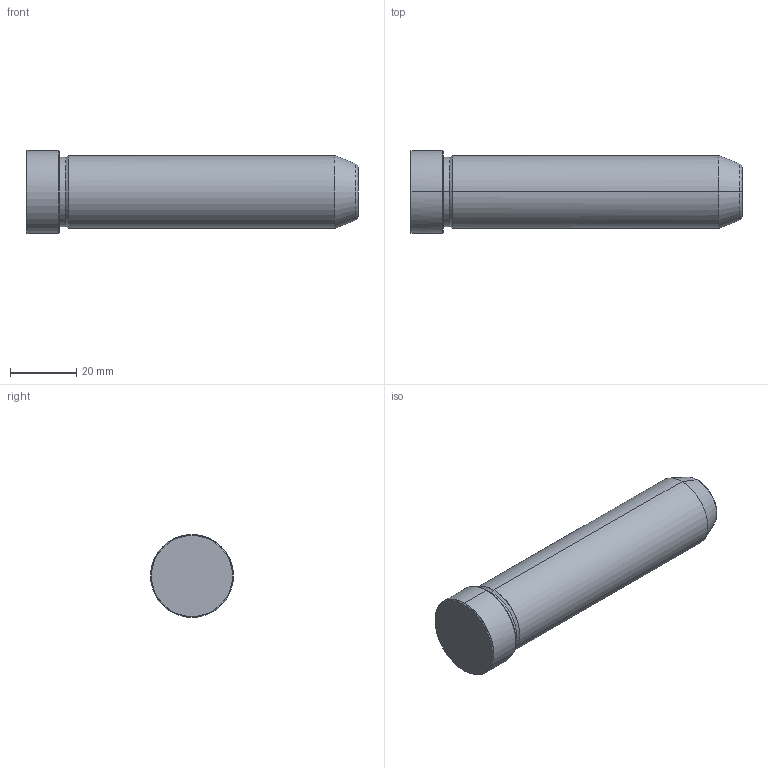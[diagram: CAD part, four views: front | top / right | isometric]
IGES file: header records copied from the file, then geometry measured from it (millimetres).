
Start section: START RECORD GO HERE.
Global section: file name: 549-22X100.igs; native system: DASSAULT SYSTEMES CATIA V5 R20 - www.3ds.com; preprocessor: CATIA Version 5 Release 20 ; author: Utente; organization: NB04-ASUS; date: 20211213.140029; units: millimetre
Bounding box: 100 x 25 x 25 mm (x, y, z)
Surface area: 7786.9 mm2 (no closed solid volume)
Topology: 0 solids, 0 shells, 19 faces, 112 edges, 112 vertices
Faces by surface type: revolution 16, plane 3
